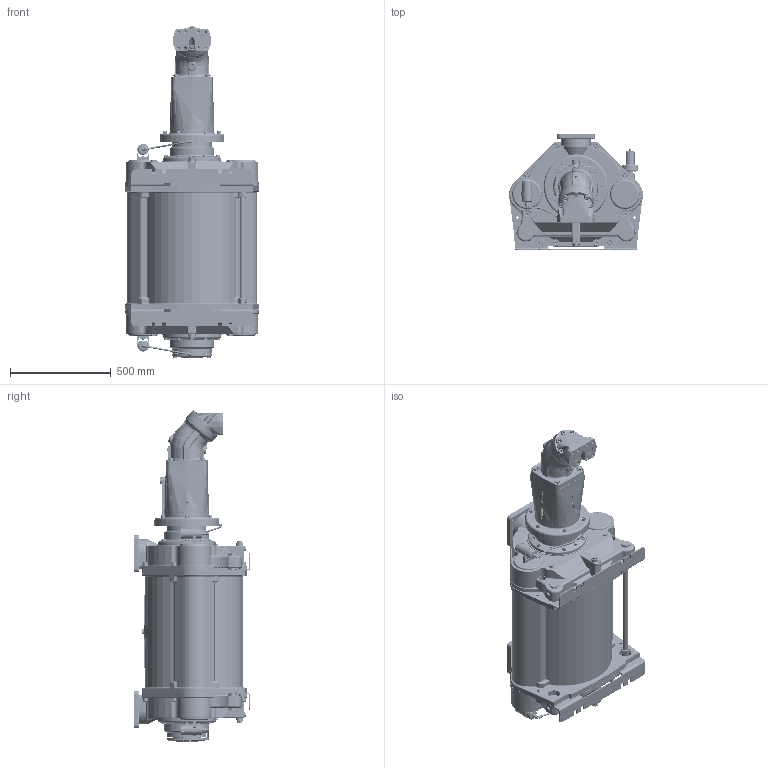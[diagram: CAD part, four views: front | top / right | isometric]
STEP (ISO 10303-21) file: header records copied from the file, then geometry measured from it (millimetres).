
FILE_DESCRIPTION(/* description */ (''),/* implementation_level */ '2;1');
FILE_NAME(/* name */ '1700029B.stp',/* time_stamp */ '2025-09-23T10:53:07+02:00',/* author */ ('JJ'),/* organization */ (''),/* preprocessor_version */ 'ST-DEVELOPER v20',/* originating_system */ 'Autodesk Inventor 2025',/* authorisation */ '');
FILE_SCHEMA (('AUTOMOTIVE_DESIGN { 1 0 10303 214 3 1 1 }'));
Products named in the file (45): 1700029; 1700028 Ready for adaptor; 1634826; 1634811; 922000266; 1620316; 1620318; 910300482; 944000089; 932400155; 932400154; 932400156; 910100148; 915000050; 922200075; 910000407; 915000217-330; 915000232; 915000225; 915000225-part1; 915000225-part2; 944600173; 944600239; 944600240; 915000217-250; 910100191; 910300221; 1634666; 1634667; 1634668; 1634130; 1634131; 1634670; 1634134; 910200105; 910100125; 910300428; 921000047; 922100045; 922100339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
Assembly tree (72 placements, depth 3):
  1700029
    1700028 Ready for adaptor
    910300482  x10
    1634826
      1634811
      922000266
    1620316
    1620318
    944000089
    932400155
    932400154
    932400156
    910100148  x4
    915000050
    922200075
    910000407  x4
    915000232  x2
    915000225  x2
      915000225-part1
      915000225-part2
    910100191  x2
    944600240  x2
    944600173  x2
    944600239  x2
    915000217-330
    910300221  x2
    915000217-250
    1634666  x2
      1634667
      1634668
      1634130
      1634131
      1634670
      1634134
      910200105
      910100125
      910300428
      921000047
      922100045
      922100339
      1634669
      925000651
      910300012
    927000134-TM2500  x2
    925000862  x2
Bounding box: 662.74 x 578.17 x 1645.17 mm (x, y, z)
Volume: 212990598.8 mm3; surface area: 4967349.4 mm2
Topology: 88 solids, 89 shells, 6989 faces, 17371 edges, 10925 vertices
Faces by surface type: plane 2540, bspline 1709, cylinder 1597, cone 575, torus 490, sphere 78
Full cylindrical faces by diameter (mm): 1.5 x16, 3 x2, 3.2 x4, 3.3 x4, 3.5 x2, 4 x6, 4.134 x4, 4.917 x2, 4.92 x10, 5 x2, 5.3 x2, 6 x42, 6.1 x2, 6.4 x2, 6.5 x8, 6.647 x1, 8 x17, 8.4 x2, 8.5 x6, 8.57 x2, 8.92 x2, 9.2 x2, 9.7 x2, 9.8 x4, 10 x19, 10.106 x18, 11 x11, 11.445 x2, 12 x25, 13 x18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
Entity records: 341634 total; most frequent: CARTESIAN_POINT 210648, ORIENTED_EDGE 27614, DIRECTION 24063, EDGE_CURVE 13807, AXIS2_PLACEMENT_3D 9429, VERTEX_POINT 8683, EDGE_LOOP 6236, FACE_OUTER_BOUND 5609
